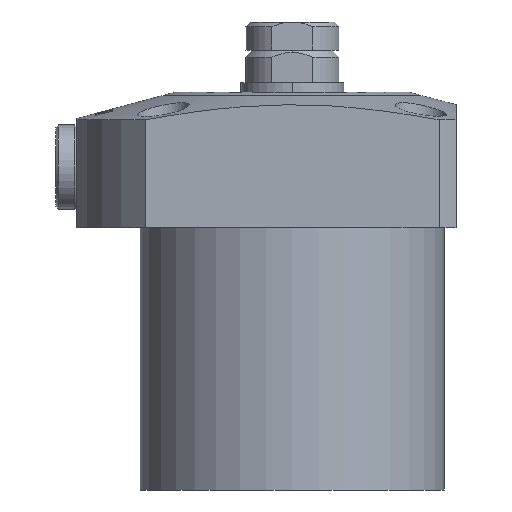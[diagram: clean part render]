
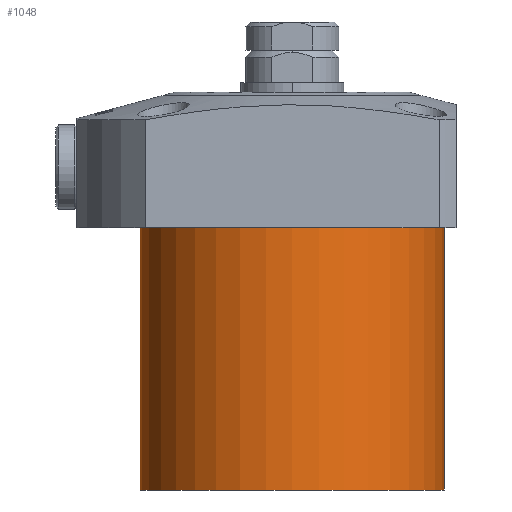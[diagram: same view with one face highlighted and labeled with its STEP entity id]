
A CAD part, front view. The second image highlights one B-rep face of the part: STEP entity #1048.
In plain terms, the highlighted cylindrical face has radius 32.5 mm (diameter 65 mm), a partial arc.
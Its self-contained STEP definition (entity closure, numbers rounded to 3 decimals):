
#114 = ORIENTED_EDGE ( 'NONE', *, *, #8727, .F. ) ;
#587 = CARTESIAN_POINT ( 'NONE',  ( -32.5, 0., -56. ) ) ;
#644 = CARTESIAN_POINT ( 'NONE',  ( 32.5, 0., -56. ) ) ;
#710 = VERTEX_POINT ( 'NONE', #587 ) ;
#884 = DIRECTION ( 'NONE',  ( 0., 0., 1. ) ) ;
#1048 = ADVANCED_FACE ( 'NONE', ( #10586 ), #9978, .T. ) ;
#1322 = VECTOR ( 'NONE', #884, 1000. ) ;
#1707 = ORIENTED_EDGE ( 'NONE', *, *, #5737, .T. ) ;
#1754 = AXIS2_PLACEMENT_3D ( 'NONE', #3156, #9902, #4108 ) ;
#1931 = CARTESIAN_POINT ( 'NONE',  ( 32.5, 0., -56. ) ) ;
#2059 = CARTESIAN_POINT ( 'NONE',  ( 0., 0., -56. ) ) ;
#2808 = VERTEX_POINT ( 'NONE', #8504 ) ;
#3001 = DIRECTION ( 'NONE',  ( 0., 0., 1. ) ) ;
#3156 = CARTESIAN_POINT ( 'NONE',  ( 0., 0., -56. ) ) ;
#4108 = DIRECTION ( 'NONE',  ( 1., 0., 0. ) ) ;
#4296 = ORIENTED_EDGE ( 'NONE', *, *, #6959, .T. ) ;
#4364 = VERTEX_POINT ( 'NONE', #7587 ) ;
#4488 = CIRCLE ( 'NONE', #8876, 32.5 ) ;
#4551 = ORIENTED_EDGE ( 'NONE', *, *, #11133, .F. ) ;
#5614 = CARTESIAN_POINT ( 'NONE',  ( -32.5, 0., -56. ) ) ;
#5660 = CIRCLE ( 'NONE', #1754, 32.5 ) ;
#5737 = EDGE_CURVE ( 'NONE', #710, #10033, #5660, .T. ) ;
#6690 = LINE ( 'NONE', #1931, #8959 ) ;
#6959 = EDGE_CURVE ( 'NONE', #10033, #4364, #6690, .T. ) ;
#7587 = CARTESIAN_POINT ( 'NONE',  ( 32.5, 0., 0. ) ) ;
#8504 = CARTESIAN_POINT ( 'NONE',  ( -32.5, 0., 0. ) ) ;
#8727 = EDGE_CURVE ( 'NONE', #710, #2808, #11545, .T. ) ;
#8738 = CARTESIAN_POINT ( 'NONE',  ( 0., 0., 0. ) ) ;
#8876 = AXIS2_PLACEMENT_3D ( 'NONE', #8738, #3001, #9738 ) ;
#8959 = VECTOR ( 'NONE', #9597, 1000. ) ;
#9597 = DIRECTION ( 'NONE',  ( 0., 0., 1. ) ) ;
#9738 = DIRECTION ( 'NONE',  ( 1., 0., 0. ) ) ;
#9785 = EDGE_LOOP ( 'NONE', ( #114, #1707, #4296, #4551 ) ) ;
#9902 = DIRECTION ( 'NONE',  ( 0., 0., 1. ) ) ;
#9978 = CYLINDRICAL_SURFACE ( 'NONE', #11231, 32.5 ) ;
#10033 = VERTEX_POINT ( 'NONE', #644 ) ;
#10586 = FACE_OUTER_BOUND ( 'NONE', #9785, .T. ) ;
#10924 = DIRECTION ( 'NONE',  ( 1., 0., 0. ) ) ;
#11133 = EDGE_CURVE ( 'NONE', #2808, #4364, #4488, .T. ) ;
#11231 = AXIS2_PLACEMENT_3D ( 'NONE', #2059, #11787, #10924 ) ;
#11545 = LINE ( 'NONE', #5614, #1322 ) ;
#11787 = DIRECTION ( 'NONE',  ( 0., 0., 1. ) ) ;
